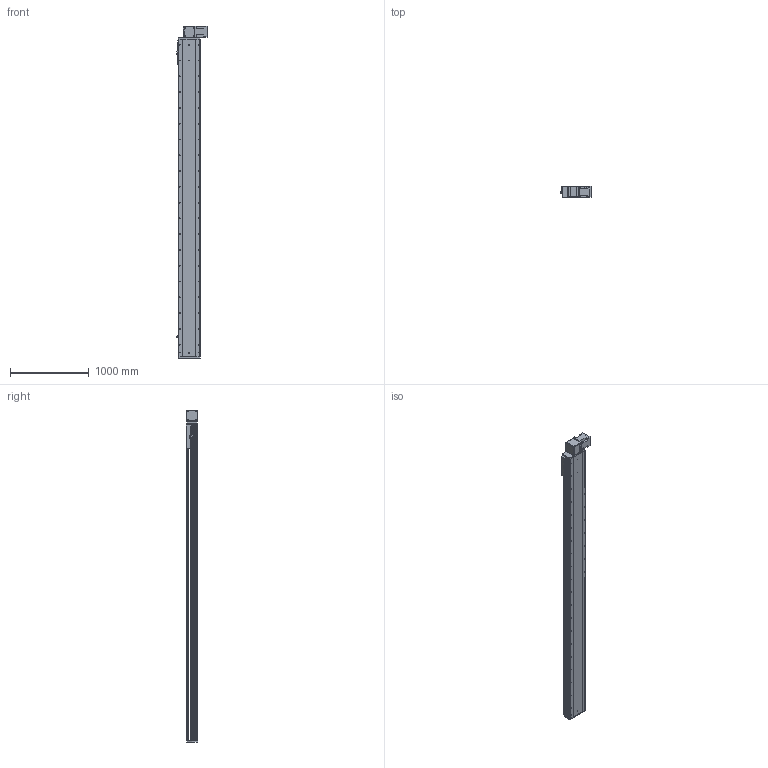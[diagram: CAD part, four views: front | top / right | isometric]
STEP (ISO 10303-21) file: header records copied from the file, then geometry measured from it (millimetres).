
FILE_DESCRIPTION (( 'STEP AP214' ), '1' );
FILE_NAME ('RTB28S-XX-3600-BL-M100-XX-C4.STEP', '2025-12-22T02:40:04', ( '' ), ( '' ), 'SwSTEP 2.0', 'SolidWorks 2018', '' );
FILE_SCHEMA (( 'AUTOMOTIVE_DESIGN' ));
Length unit declared in the file: millimetre
Products named in the file (4): RTB28S-XX-3600-BL-M100-XX-C4; RTB28S-GY-008^RTB28S-XX-XX-BL-M100-XX-C4; RTB28S-GY-011^RTB28S-XX-XX-BL-M100-XX-C4; RTB28S-GY-004^RTB28S-XX-XX-BL-M100-XX-C4
Assembly tree (3 placements, depth 2):
  RTB28S-XX-3600-BL-M100-XX-C4
    RTB28S-GY-011^RTB28S-XX-XX-BL-M100-XX-C4
    RTB28S-GY-004^RTB28S-XX-XX-BL-M100-XX-C4
    RTB28S-GY-008^RTB28S-XX-XX-BL-M100-XX-C4
Bounding box: 380.7 x 145 x 4207 mm (x, y, z)
Volume: 70556999 mm3; surface area: 6556769 mm2
Topology: 3 solids, 4 shells, 918 faces, 2478 edges, 1588 vertices
Faces by surface type: cylinder 463, plane 371, cone 80, torus 4
Entity records: 35831 total; most frequent: CARTESIAN_POINT 6952, DIRECTION 5280, ORIENTED_EDGE 4892, EDGE_CURVE 2446, AXIS2_PLACEMENT_3D 1960, VERTEX_POINT 1588, VECTOR 1360, LINE 1360
